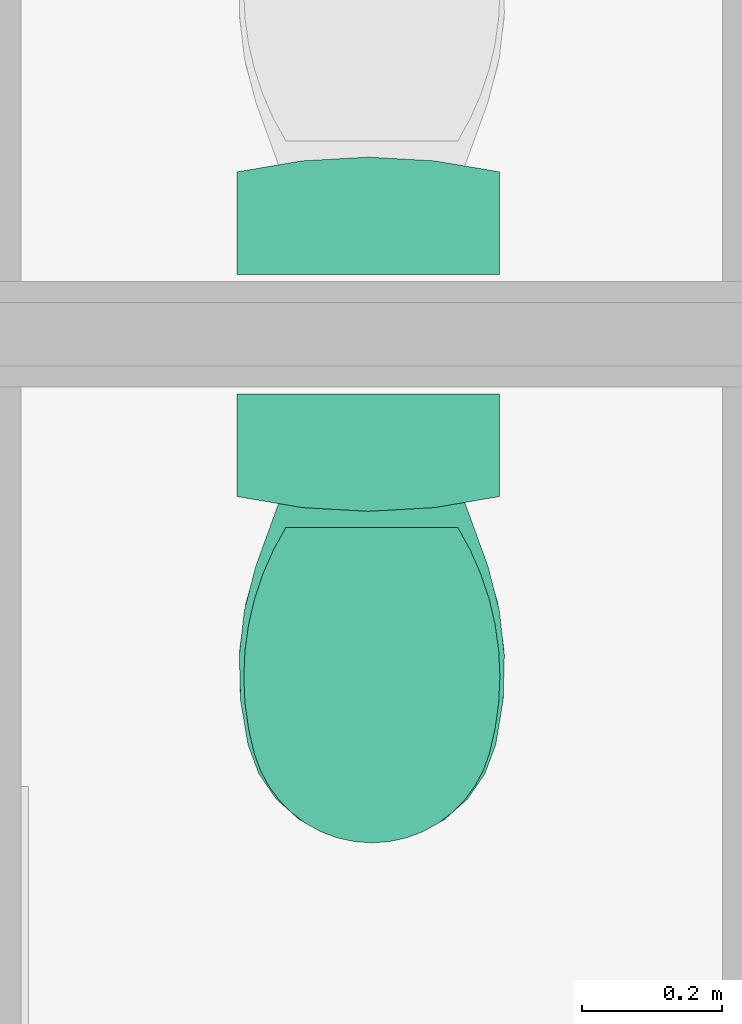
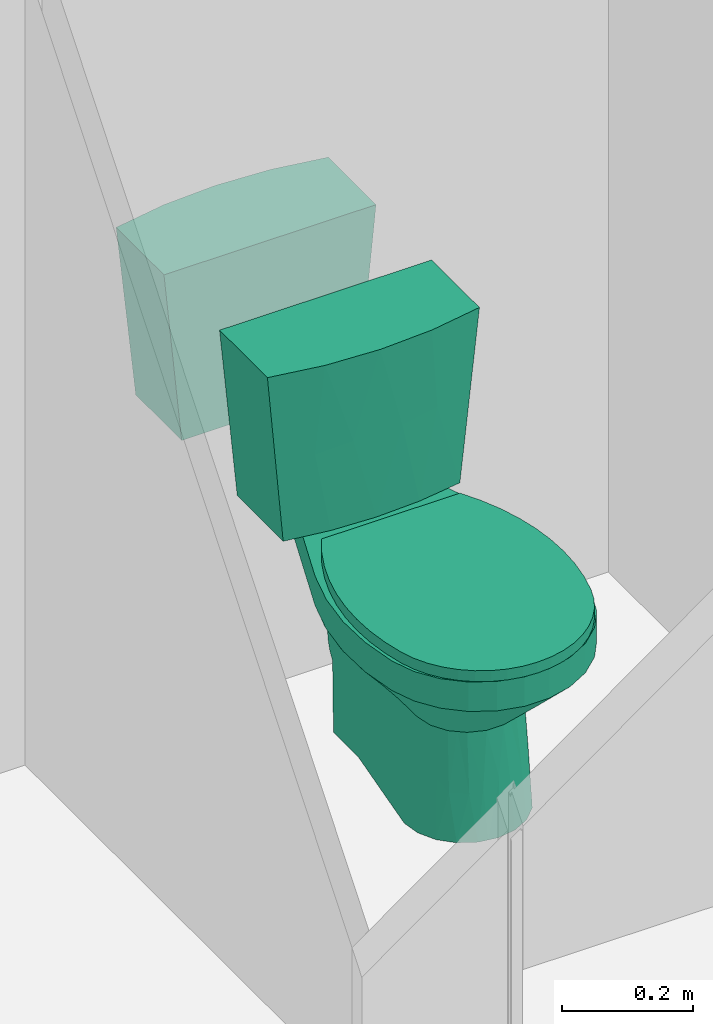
# One storey, part 68 of 155: 4 flow terminals.
"""IFC2X3 building model written with IfcOpenShell, lengths in metres."""

import ifcopenshell
import ifcopenshell.guid

model = None  # the IFC model being written
_history = None  # IfcOwnerHistory: only IFC2X3 demands one
_inside = {}  # id of a spatial element -> (the spatial element, [elements in it])
_under = {}  # id of a project, library or spatial element -> (it, [spatial elements below it])
_declared = {}  # id of a project -> (the project, [libraries it declares])
_typed = {}  # id of a type object -> (the type object, [elements of that type])
_made_of = {}  # id of a material, layer set ... -> (it, [elements and type objects made of it])


def new_model(schema):
    """Start an empty IFC model of exactly this schema.

    Asked for "IFC4X3", IfcOpenShell would pick the latest addendum, in which some entities
    have other attributes; the version numbers below select the first issue.
    IFC2X3 requires an IfcOwnerHistory on every rooted entity: one is made here for all.
    """
    global model, _history
    if schema == "IFC4X3":
        model = ifcopenshell.file(schema_version=(4, 3, 0, 0))
    else:
        model = ifcopenshell.file(schema=schema)
    _inside.clear()
    _under.clear()
    _declared.clear()
    _typed.clear()
    _made_of.clear()
    _history = None
    if model.schema == "IFC2X3":
        org = make("IfcOrganization", Name="unknown")
        user = make(
            "IfcPersonAndOrganization",
            ThePerson=make("IfcPerson", FamilyName="unknown"),
            TheOrganization=org,
        )
        app = make(
            "IfcApplication",
            ApplicationDeveloper=org,
            Version="unknown",
            ApplicationFullName="unknown",
            ApplicationIdentifier="unknown",
        )
        _history = make(
            "IfcOwnerHistory",
            OwningUser=user,
            OwningApplication=app,
            ChangeAction="ADDED",
            CreationDate=0,
        )
    return model


def make(cls, **values):
    """One entity of the class cls with the attributes given. An attribute that is None is left unset."""
    return model.create_entity(
        cls, **{name: value for name, value in values.items() if value is not None}
    )


def entity(cls, *values):
    """Any entity or typed value of the class cls, its attributes in the order of the schema. None: left unset."""
    e = model.create_entity(cls)
    for i, value in enumerate(values):
        if value is not None:
            e[i] = value
    return e


def rooted(cls, **values):
    """An entity with a GlobalId (a new one), such as an element, a storey or a relation."""
    return make(cls, GlobalId=ifcopenshell.guid.new(), OwnerHistory=_history, **values)


def si_unit(unit_type, name, prefix=None):
    """IfcSIUnit, for example si_unit("LENGTHUNIT", "METRE", prefix="MILLI")."""
    return make("IfcSIUnit", UnitType=unit_type, Prefix=prefix, Name=name)


def converted_unit(unit_type, name, factor, base, dimensions=None, offset=None):
    """IfcConversionBasedUnit, such as the inch: factor (a typed value) times the base unit."""
    return make(
        "IfcConversionBasedUnit"
        if offset is None
        else "IfcConversionBasedUnitWithOffset",
        ConversionOffset=offset,
        Dimensions=None
        if dimensions is None
        else entity("IfcDimensionalExponents", *dimensions),
        UnitType=unit_type,
        Name=name,
        ConversionFactor=make(
            "IfcMeasureWithUnit", ValueComponent=factor, UnitComponent=base
        ),
    )


def derived_unit(unit_type, elements):
    """IfcDerivedUnit: a product of units, each with its exponent."""
    return make(
        "IfcDerivedUnit",
        Elements=[
            make("IfcDerivedUnitElement", Unit=unit, Exponent=power)
            for unit, power in elements
        ],
        UnitType=unit_type,
    )


def assignment(units):
    """IfcUnitAssignment: the units of a project."""
    return None if units is None else make("IfcUnitAssignment", Units=units)


def point(xyz):
    """IfcCartesianPoint."""
    return None if xyz is None else make("IfcCartesianPoint", Coordinates=xyz)


def direction(xyz):
    """IfcDirection."""
    return None if xyz is None else make("IfcDirection", DirectionRatios=xyz)


def frame(location, z_axis=None, x_axis=None):
    """IfcAxis2Placement3D, a coordinate frame: its origin and axes. An axis left out is left unset."""
    return make(
        "IfcAxis2Placement3D",
        Location=point(location),
        Axis=direction(z_axis),
        RefDirection=direction(x_axis),
    )


def frame_2d(location, x_axis=None):
    """IfcAxis2Placement2D, a coordinate frame in the plane: its origin and x axis."""
    return make(
        "IfcAxis2Placement2D", Location=point(location), RefDirection=direction(x_axis)
    )


def origin():
    """The frame at (0, 0, 0) with its axes left unset."""
    return frame((0.0, 0.0, 0.0))


def place(relative_to, where):
    """IfcLocalPlacement: puts the frame where relative to a parent placement (None: the world)."""
    return make(
        "IfcLocalPlacement", PlacementRelTo=relative_to, RelativePlacement=where
    )


def context(
    kind, dimensions, precision=None, world=None, true_north=None, identifier=None
):
    """IfcGeometricRepresentationContext, for example the 3D "Model" context."""
    return make(
        "IfcGeometricRepresentationContext",
        ContextIdentifier=identifier,
        ContextType=kind,
        CoordinateSpaceDimension=dimensions,
        Precision=precision,
        WorldCoordinateSystem=world,
        TrueNorth=true_north,
    )


def subcontext(parent, identifier, kind, view, scale=None):
    """IfcGeometricRepresentationSubContext, for example "Body" below "Model"."""
    return make(
        "IfcGeometricRepresentationSubContext",
        ContextIdentifier=identifier,
        ContextType=kind,
        ParentContext=parent,
        TargetScale=scale,
        TargetView=view,
    )


def project(units=None, contexts=None):
    """IfcProject with its units and contexts."""
    return rooted(
        "IfcProject",
        Name="project",
        RepresentationContexts=contexts,
        UnitsInContext=assignment(units),
    )


def spatial(cls, under=None, at=None, **own):
    """A site, building, storey or space (cls), placed at a placement, below another one or the project."""
    s = rooted(cls, ObjectPlacement=at, **own)
    if under is not None:
        _under.setdefault(under.id(), (under, []))[1].append(s)
    return s


def polyline(points):
    """IfcPolyline through the points."""
    return make("IfcPolyline", Points=[point(p) for p in points])


def circle_curve(where, radius):
    """IfcCircle in the frame where."""
    return make("IfcCircle", Position=where, Radius=radius)


def parameter(value):
    """IfcParameterValue: where a trimmed curve begins or ends, as a parameter of its basis curve."""
    return model.create_entity("IfcParameterValue", value)


def trimmed(basis, trim1, trim2, sense, master):
    """IfcTrimmedCurve: the piece of a basis curve between two trims."""
    return make(
        "IfcTrimmedCurve",
        BasisCurve=basis,
        Trim1=trim1,
        Trim2=trim2,
        SenseAgreement=sense,
        MasterRepresentation=master,
    )


def segment(curve, same_sense, transition):
    """IfcCompositeCurveSegment."""
    return make(
        "IfcCompositeCurveSegment",
        Transition=transition,
        SameSense=same_sense,
        ParentCurve=curve,
    )


def composite_curve(segments, self_intersect=None):
    """IfcCompositeCurve: segments joined end to end."""
    return make("IfcCompositeCurve", Segments=segments, SelfIntersect=self_intersect)


def outline(outer, holes=None, kind="AREA"):
    """IfcArbitraryClosedProfileDef: a profile drawn as a closed curve; with holes, ...WithVoids."""
    if holes is None:
        return make("IfcArbitraryClosedProfileDef", ProfileType=kind, OuterCurve=outer)
    return make(
        "IfcArbitraryProfileDefWithVoids",
        ProfileType=kind,
        OuterCurve=outer,
        InnerCurves=holes,
    )


def extrude(swept, where, along, depth):
    """IfcExtrudedAreaSolid: the profile swept, set in the frame where, extruded along a direction by depth."""
    return make(
        "IfcExtrudedAreaSolid",
        SweptArea=swept,
        Position=where,
        ExtrudedDirection=direction(along),
        Depth=depth,
    )


def faces_of(points, faces, orient=None, outer=None):
    """IfcFace entities. A face is a list of loops; a loop is a list of indices into points, from 0.

    orient and outer hold one flag for each loop. By default every Orientation is true, the
    first loop of a face is its IfcFaceOuterBound and the others are IfcFaceBound.
    """
    made = []
    for i, loops in enumerate(faces):
        bounds = []
        for j, loop in enumerate(loops):
            is_outer = j == 0 if outer is None else outer[i][j]
            bounds.append(
                make(
                    "IfcFaceOuterBound" if is_outer else "IfcFaceBound",
                    Bound=make("IfcPolyLoop", Polygon=[points[k] for k in loop]),
                    Orientation=True if orient is None else orient[i][j],
                )
            )
        made.append(make("IfcFace", Bounds=bounds))
    return made


def faceted_brep(points, faces, orient=None, outer=None, voids=None):
    """IfcFacetedBrep: a solid bounded by flat faces; with voids (closed shells), ...WithVoids."""
    shared = [point(p) for p in points]
    hull = make("IfcClosedShell", CfsFaces=faces_of(shared, faces, orient, outer))
    if voids is None:
        return make("IfcFacetedBrep", Outer=hull)
    return make(
        "IfcFacetedBrepWithVoids",
        Outer=hull,
        Voids=[
            make(cls, CfsFaces=faces_of(shared, fs, o, b)) for cls, fs, o, b in voids
        ],
    )


def shape(context_of_items, identifier, shape_type, items):
    """IfcShapeRepresentation: the items that make up one representation, for example the "Body"."""
    return make(
        "IfcShapeRepresentation",
        ContextOfItems=context_of_items,
        RepresentationIdentifier=identifier,
        RepresentationType=shape_type,
        Items=items,
    )


def source(mapping_origin, context_of_items, identifier, shape_type, items):
    """IfcRepresentationMap: a shape defined once, which mapped items show again and again."""
    return make(
        "IfcRepresentationMap",
        MappingOrigin=mapping_origin,
        MappedRepresentation=shape(context_of_items, identifier, shape_type, items),
    )


def transform(
    local_origin,
    x_axis=None,
    y_axis=None,
    z_axis=None,
    scale=None,
    scale2=None,
    scale3=None,
    uniform=True,
):
    """IfcCartesianTransformationOperator3D, or its non-uniform kind. x_axis, y_axis, z_axis: its Axis1, 2, 3."""
    if uniform:
        return make(
            "IfcCartesianTransformationOperator3D",
            Axis1=direction(x_axis),
            Axis2=direction(y_axis),
            LocalOrigin=point(local_origin),
            Scale=scale,
            Axis3=direction(z_axis),
        )
    return make(
        "IfcCartesianTransformationOperator3DnonUniform",
        Axis1=direction(x_axis),
        Axis2=direction(y_axis),
        LocalOrigin=point(local_origin),
        Scale=scale,
        Axis3=direction(z_axis),
        Scale2=scale2,
        Scale3=scale3,
    )


def mapped(mapping_source, mapping_target):
    """IfcMappedItem: shows the shape of a source again, moved by a transform."""
    return make(
        "IfcMappedItem", MappingSource=mapping_source, MappingTarget=mapping_target
    )


def material(Name=None, Category=None):
    """IfcMaterial."""
    return make("IfcMaterial", Name=Name, Category=Category)


def made_of(thing, what):
    """Note that an element or type object is made of a material, layer set ...; save() writes the relation."""
    if what is not None:
        _made_of.setdefault(what.id(), (what, []))[1].append(thing)
    return thing


def element(
    cls,
    number,
    at=None,
    inside=None,
    cuts=None,
    type_object=None,
    material=None,
    context=None,
    identifier="Body",
    shape_type=None,
    held_by="IfcProductDefinitionShape",
    body=None,
    shapes=None,
    **own,
):
    """One element of the class cls, such as IfcWall. Its Tag is "e" and its number.

    at: its placement. inside: the storey or other place that contains it. cuts: it is an
    opening in that element (IfcRelVoidsElement). A single representation is given by context,
    identifier, shape_type and body (its items); several are given by shapes. held_by: the class
    of the entity that holds the representations. save() writes the other relations.
    """
    e = rooted(cls, Tag="e%d" % number, ObjectPlacement=at, **own)
    if body is not None:
        shapes = [shape(context, identifier, shape_type, body)]
    if shapes is not None:
        e.Representation = make(held_by, Representations=shapes)
    if inside is not None:
        _inside.setdefault(inside.id(), (inside, []))[1].append(e)
    if cuts is not None:
        rooted(
            "IfcRelVoidsElement", RelatingBuildingElement=cuts, RelatedOpeningElement=e
        )
    if type_object is not None:
        _typed.setdefault(type_object.id(), (type_object, []))[1].append(e)
    return made_of(e, material)


def aggregate(whole, parts):
    """IfcRelAggregates: a whole, such as a stair, and the parts it consists of."""
    return rooted("IfcRelAggregates", RelatingObject=whole, RelatedObjects=parts)


def save(model, path):
    """Write the relations noted so far, then the file.

    IfcRelAggregates (storeys below a building ...), IfcRelContainedInSpatialStructure (elements
    in a storey), IfcRelDefinesByType, IfcRelAssociatesMaterial and IfcRelDeclares: one each for
    every whole, place, type object, material and project.
    """
    for whole, parts in _under.values():
        aggregate(whole, parts)
    for where, things in _inside.values():
        rooted(
            "IfcRelContainedInSpatialStructure",
            RelatedElements=things,
            RelatingStructure=where,
        )
    for kind, things in _typed.values():
        rooted("IfcRelDefinesByType", RelatedObjects=things, RelatingType=kind)
    for what, things in _made_of.values():
        rooted("IfcRelAssociatesMaterial", RelatedObjects=things, RelatingMaterial=what)
    for by, libraries in _declared.values():
        rooted("IfcRelDeclares", RelatingContext=by, RelatedDefinitions=libraries)
    model.write(path)


model = new_model("IFC2X3")

# Units and contexts
model_context = context("Model", 3, precision=1e-05, world=origin(), true_north=direction((6.12303176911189e-17, 1.0)))
body_context = subcontext(model_context, "Body", "Model", "MODEL_VIEW")
ifc_project = project(units=[si_unit("LENGTHUNIT", "METRE"), si_unit("AREAUNIT", "SQUARE_METRE"), si_unit("VOLUMEUNIT", "CUBIC_METRE"), converted_unit("PLANEANGLEUNIT", "DEGREE", entity("IfcRatioMeasure", 0.0174532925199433), si_unit("PLANEANGLEUNIT", "RADIAN"), dimensions=[0, 0, 0, 0, 0, 0, 0]), si_unit("MASSUNIT", "GRAM", prefix="KILO"), derived_unit("MASSDENSITYUNIT", [(si_unit("MASSUNIT", "GRAM", prefix="KILO"), 1), (si_unit("LENGTHUNIT", "METRE"), -3)]), si_unit("TIMEUNIT", "SECOND"), si_unit("FREQUENCYUNIT", "HERTZ"), si_unit("THERMODYNAMICTEMPERATUREUNIT", "DEGREE_CELSIUS"), derived_unit("THERMALTRANSMITTANCEUNIT", [(si_unit("MASSUNIT", "GRAM", prefix="KILO"), 1), (si_unit("THERMODYNAMICTEMPERATUREUNIT", "KELVIN"), -1), (si_unit("TIMEUNIT", "SECOND"), -3)]), derived_unit("VOLUMETRICFLOWRATEUNIT", [(si_unit("LENGTHUNIT", "METRE"), 3), (si_unit("TIMEUNIT", "SECOND"), -1)]), si_unit("ELECTRICCURRENTUNIT", "AMPERE"), si_unit("ELECTRICVOLTAGEUNIT", "VOLT"), si_unit("POWERUNIT", "WATT"), si_unit("FORCEUNIT", "NEWTON", prefix="KILO"), si_unit("ILLUMINANCEUNIT", "LUX"), si_unit("LUMINOUSFLUXUNIT", "LUMEN"), si_unit("LUMINOUSINTENSITYUNIT", "CANDELA"), derived_unit("USERDEFINED", [(si_unit("MASSUNIT", "GRAM", prefix="KILO"), -1), (si_unit("LENGTHUNIT", "METRE"), -2), (si_unit("TIMEUNIT", "SECOND"), 3), (si_unit("LUMINOUSFLUXUNIT", "LUMEN"), 1)]), derived_unit("LINEARVELOCITYUNIT", [(si_unit("LENGTHUNIT", "METRE"), 1), (si_unit("TIMEUNIT", "SECOND"), -1)]), si_unit("PRESSUREUNIT", "PASCAL"), derived_unit("USERDEFINED", [(si_unit("LENGTHUNIT", "METRE"), -2), (si_unit("MASSUNIT", "GRAM", prefix="KILO"), 1), (si_unit("TIMEUNIT", "SECOND"), -2)])], contexts=[model_context])

# Site, building, storey, space
site_placement = place(None, frame((26.9889013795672, -17.5624287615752, 0.0)))
site = spatial("IfcSite", under=ifc_project, at=site_placement, Name="Default", CompositionType="ELEMENT")
building_placement = place(site_placement, origin())
building = spatial("IfcBuilding", under=site, at=building_placement, Name="C. C. L. Monsenhor Antônio Sampaio", CompositionType="ELEMENT")
storey_placement = place(building_placement, frame((0.0, 0.0, 1.19999999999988)))
storey = spatial("IfcBuildingStorey", under=building, at=storey_placement, Name="Nível 1.2", CompositionType="ELEMENT", Elevation=1.19999999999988)
space_1_placement = place(storey_placement, origin())
space_1 = spatial("IfcSpace", under=storey, at=space_1_placement, Name="92", CompositionType="ELEMENT", InteriorOrExteriorSpace="INTERNAL")

# Flow terminal
ifc_material_1 = material(Name="Deca CR37 Creme Cerâmica")
shared_shape_1 = source(origin(), body_context, "Body", "Brep", [
    faceted_brep([(0.156041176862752, 0.0, 0.140537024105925), (0.0783916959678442, 0.0, 0.151956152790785), (0.0, 0.0, 0.155774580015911), (-0.0783916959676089, 0.0, 0.151956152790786), (-0.156041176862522, 0.0, 0.140537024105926), (-0.156041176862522, 0.0, 0.0), (0.156041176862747, 0.0, 0.0), (0.187262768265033, 0.320000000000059, 0.146391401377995), (0.187262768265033, 0.320000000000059, 0.0), (-0.187262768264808, 0.320000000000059, 0.0), (-0.187262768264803, 0.320000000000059, 0.146391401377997), (-0.0942242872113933, 0.320000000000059, 0.162205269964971), (0.0, 0.320000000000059, 0.167498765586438), (0.0942242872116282, 0.320000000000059, 0.16220526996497), (-0.171038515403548, 0.153712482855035, 0.143349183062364), (0.172265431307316, 0.166287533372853, 0.143579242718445), (0.107419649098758, 0.153032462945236, 0.154306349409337), (0.0432143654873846, 0.160000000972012, 0.160496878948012), (-0.0432143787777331, 0.160000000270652, 0.160496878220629), (-0.108279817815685, 0.16696754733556, 0.154716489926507)], [[[0, 1, 2, 3, 4, 5, 6]], [[7, 8, 9, 10, 11, 12, 13]], [[9, 5, 4, 14, 10]], [[6, 8, 7, 15, 0]], [[5, 9, 8, 6]], [[0, 15, 7, 16]], [[13, 16, 7]], [[13, 12, 17]], [[16, 13, 17]], [[16, 17, 1]], [[18, 17, 12]], [[17, 2, 1]], [[19, 18, 11]], [[3, 19, 4]], [[10, 19, 11]], [[11, 18, 12]], [[18, 19, 3]], [[0, 16, 1]], [[2, 17, 18]], [[10, 14, 4, 19]], [[2, 18, 3]]]),
])
flow_terminal_1_placement = place(space_1_placement, frame((-2.88315075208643, -12.5930663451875, 0.380000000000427), z_axis=(0.0, 1.0, 0.0), x_axis=(-1.0, 0.0, 0.0)))
element("IfcFlowTerminal", 1, at=flow_terminal_1_placement, inside=space_1, material=ifc_material_1, Name="Caixa de Descarga Acoplada:Caixa de Descarga Acoplada", ObjectType="Caixa de Descarga Acoplada", context=body_context, shape_type="MappedRepresentation", body=[
    mapped(shared_shape_1, transform((0.0, 0.0, 0.0), scale=1.0)),
])

# Space
space_2_placement = place(storey_placement, origin())
space_2 = spatial("IfcSpace", under=storey, at=space_2_placement, Name="93", CompositionType="ELEMENT", InteriorOrExteriorSpace="INTERNAL")

# Flow terminals
shared_shape_2 = source(origin(), body_context, "Body", "Brep", [
    faceted_brep([(0.268160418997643, 0.380000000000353, 0.118207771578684), (0.268160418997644, 0.380000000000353, 0.1938965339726), (0.268160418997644, 0.313331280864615, 0.193201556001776), (0.268160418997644, 0.24666007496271, 0.192953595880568), (0.268160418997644, 0.180000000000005, 0.193896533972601), (0.268160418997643, 0.0549999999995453, 0.140707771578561), (0.268160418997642, 0.0549999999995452, 0.00159527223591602), (0.268160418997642, 0.0698988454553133, 0.0100176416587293), (0.268160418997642, 0.0823512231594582, 0.0217586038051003), (0.268160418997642, 0.0916344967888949, 0.0361368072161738), (0.268160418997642, 0.0972099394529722, 0.0523178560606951), (0.268160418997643, 0.0987539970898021, 0.0693627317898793), (0.268160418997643, 0.179999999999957, 0.102188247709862), (0.268160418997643, 0.19786747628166, 0.0997541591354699), (0.268160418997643, 0.215838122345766, 0.101246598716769), (0.268160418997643, 0.233059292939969, 0.10659475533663), (0.268160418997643, 0.248713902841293, 0.11554487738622), (0.113406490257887, 0.0916344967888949, 0.0361368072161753), (0.113406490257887, 0.0823512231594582, 0.0217586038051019), (0.113406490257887, 0.0698988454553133, 0.0100176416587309), (0.113406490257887, 0.0549999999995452, 0.00159527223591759), (0.113406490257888, 0.0549999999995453, 0.140707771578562), (0.113406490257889, 0.180000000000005, 0.193896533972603), (0.113406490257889, 0.246666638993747, 0.194094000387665), (0.113406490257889, 0.313333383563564, 0.194043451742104), (0.113406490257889, 0.380000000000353, 0.193896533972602), (0.113406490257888, 0.380000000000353, 0.118207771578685), (0.113406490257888, 0.248713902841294, 0.115544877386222), (0.113406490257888, 0.233059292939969, 0.106594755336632), (0.113406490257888, 0.215838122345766, 0.101246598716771), (0.113406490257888, 0.19786747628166, 0.0997541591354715), (0.113406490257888, 0.179999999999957, 0.102188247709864), (0.113406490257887, 0.0987539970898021, 0.0693627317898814), (0.113406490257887, 0.0972099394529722, 0.0523178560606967), (0.252339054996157, 0.380000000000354, 0.467840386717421), (0.275610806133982, 0.380000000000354, 0.444568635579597), (0.290552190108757, 0.380000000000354, 0.415244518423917), (0.295700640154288, 0.380000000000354, 0.382738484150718), (0.281970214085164, 0.380000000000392, 0.288317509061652), (0.105710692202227, 0.380000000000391, 0.24571892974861), (0.0979976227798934, 0.380000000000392, 0.297541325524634), (0.085317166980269, 0.380000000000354, 0.382738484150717), (0.0904656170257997, 0.380000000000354, 0.415244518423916), (0.105407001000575, 0.380000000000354, 0.444568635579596), (0.128678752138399, 0.380000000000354, 0.467840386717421), (0.158002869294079, 0.380000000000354, 0.482781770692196), (0.190508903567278, 0.380000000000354, 0.487930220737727), (0.206761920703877, 0.380000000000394, 0.485355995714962), (0.223014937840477, 0.380000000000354, 0.482781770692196), (0.27929222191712, 0.179999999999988, 0.393896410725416), (0.273106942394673, 0.179999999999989, 0.423407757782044), (0.257407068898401, 0.179999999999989, 0.449150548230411), (0.245704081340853, 0.179999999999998, 0.458654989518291), (0.234001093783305, 0.179999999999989, 0.468159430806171), (0.205585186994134, 0.179999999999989, 0.47824474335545), (0.175432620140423, 0.179999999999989, 0.47824474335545), (0.161224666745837, 0.179999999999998, 0.473202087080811), (0.147016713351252, 0.179999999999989, 0.468159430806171), (0.123610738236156, 0.179999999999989, 0.449150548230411), (0.107910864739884, 0.179999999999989, 0.423407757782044), (0.101725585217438, 0.179999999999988, 0.393896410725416), (0.104935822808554, 0.179999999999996, 0.339012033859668), (0.107574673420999, 0.179999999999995, 0.293896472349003), (0.271287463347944, 0.179999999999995, 0.249045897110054), (0.274335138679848, 0.179999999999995, 0.304195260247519), (0.098784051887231, 0.290142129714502, 0.330769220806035), (0.105110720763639, 0.283569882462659, 0.273844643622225), (0.0934222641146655, 0.281208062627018, 0.388250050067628), (0.0953872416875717, 0.257257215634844, 0.389586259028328), (0.274339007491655, 0.279255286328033, 0.255685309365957), (0.280137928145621, 0.282802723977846, 0.312510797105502), (0.287496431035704, 0.280000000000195, 0.388317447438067), (0.285630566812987, 0.25725723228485, 0.389586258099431), (0.0966193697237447, 0.275039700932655, 0.409632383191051), (0.121774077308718, 0.29110573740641, 0.45601571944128), (0.109893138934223, 0.271267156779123, 0.439731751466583), (0.233838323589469, 0.291843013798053, 0.474126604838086), (0.259243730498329, 0.291105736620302, 0.456015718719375), (0.271124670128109, 0.271267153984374, 0.4397317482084), (0.165732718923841, 0.276826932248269, 0.480372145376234), (0.284398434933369, 0.275039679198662, 0.40963238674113), (0.137585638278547, 0.278929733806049, 0.46796088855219), (0.212957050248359, 0.281586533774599, 0.481168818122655), (0.186508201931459, 0.26973608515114, 0.483217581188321)], [[[0, 1, 2, 3, 4, 5, 6, 7, 8, 9, 10, 11, 12, 13, 14, 15, 16]], [[17, 18, 19, 20, 21, 22, 23, 24, 25, 26, 27, 28, 29, 30, 31, 32, 33]], [[20, 6, 5, 21]], [[34, 35, 36, 37, 38, 1, 0, 26, 25, 39, 40, 41, 42, 43, 44, 45, 46, 47, 48]], [[26, 0, 16, 27]], [[15, 28, 27, 16]], [[29, 28, 15, 14]], [[13, 12, 31, 30]], [[14, 13, 30, 29]], [[31, 12, 11, 32]], [[33, 32, 11, 10]], [[17, 33, 10, 9]], [[9, 8, 18, 17]], [[19, 18, 8, 7]], [[20, 19, 7, 6]], [[21, 5, 4, 22]], [[49, 50, 51, 52, 53, 54, 55, 56, 57, 58, 59, 60, 61, 62, 22, 4, 63, 64]], [[62, 61, 65]], [[62, 65, 66]], [[22, 66, 23]], [[39, 66, 40]], [[65, 67, 41]], [[61, 60, 68, 67]], [[39, 25, 24]], [[66, 39, 24]], [[22, 62, 66]], [[66, 24, 23]], [[40, 66, 65]], [[40, 65, 41]], [[67, 65, 61]], [[69, 1, 38]], [[70, 38, 37]], [[3, 2, 69]], [[69, 2, 1]], [[70, 37, 71, 72, 49]], [[64, 70, 49]], [[69, 38, 70]], [[64, 69, 70]], [[69, 63, 3]], [[4, 3, 63]], [[69, 64, 63]], [[59, 73, 60]], [[73, 42, 41]], [[44, 43, 74]], [[58, 74, 75]], [[52, 76, 53]], [[43, 42, 75]], [[35, 77, 78]], [[56, 55, 79]], [[68, 60, 73, 41, 67]], [[80, 49, 72, 71, 37]], [[43, 75, 74]], [[81, 74, 58]], [[44, 81, 45]], [[44, 74, 81]], [[81, 79, 45]], [[73, 59, 75]], [[56, 79, 81]], [[75, 59, 58]], [[53, 76, 82]], [[76, 34, 48]], [[78, 80, 36]], [[83, 82, 47]], [[54, 53, 82]], [[77, 35, 34]], [[54, 82, 83]], [[80, 50, 49]], [[47, 82, 48]], [[76, 48, 82]], [[79, 83, 46]], [[79, 55, 83]], [[34, 76, 77]], [[77, 51, 78]], [[47, 46, 83]], [[45, 79, 46]], [[56, 81, 57]], [[83, 55, 54]], [[77, 76, 52]], [[51, 77, 52]], [[57, 81, 58]], [[35, 78, 36]], [[78, 51, 50]], [[42, 73, 75]], [[50, 80, 78]], [[36, 80, 37]]]),
    faceted_brep([(0.278810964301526, 0.0549999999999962, 0.00159527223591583), (0.102206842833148, 0.0549999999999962, 0.00159527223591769), (0.0249993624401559, 0.0549999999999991, 0.214136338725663), (0.00887872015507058, 0.055, 0.276529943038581), (0.001595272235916, 0.0550000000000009, 0.340559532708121), (0.00329068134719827, 0.0550000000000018, 0.404979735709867), (0.0139319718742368, 0.0550000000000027, 0.46853758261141), (0.0293015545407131, 0.0550000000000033, 0.50973851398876), (0.0541240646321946, 0.0550000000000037, 0.546037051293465), (0.0869439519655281, 0.0550000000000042, 0.575304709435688), (0.1258367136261, 0.0550000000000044, 0.595825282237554), (0.168521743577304, 0.0550000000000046, 0.606395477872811), (0.212496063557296, 0.0550000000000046, 0.606395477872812), (0.2551810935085, 0.0550000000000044, 0.595825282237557), (0.294073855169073, 0.0550000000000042, 0.575304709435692), (0.326893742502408, 0.0550000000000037, 0.546037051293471), (0.351716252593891, 0.0550000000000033, 0.509738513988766), (0.367085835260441, 0.0550000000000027, 0.468537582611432), (0.377727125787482, 0.0550000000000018, 0.404979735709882), (0.379422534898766, 0.0550000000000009, 0.340559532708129), (0.37213908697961, 0.055, 0.276529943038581), (0.356018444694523, 0.0549999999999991, 0.21413633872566), (0.326893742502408, 0.0, 0.546037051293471), (0.294073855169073, 0.0, 0.575304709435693), (0.2551810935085, 0.0, 0.595825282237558), (0.212496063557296, 0.0, 0.606395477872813), (0.168521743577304, 0.0, 0.606395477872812), (0.1258367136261, 0.0, 0.595825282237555), (0.0869439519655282, 0.0, 0.575304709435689), (0.0541240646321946, 0.0, 0.546037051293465), (0.0293015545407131, 0.0, 0.50973851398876), (0.0139319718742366, 0.0, 0.468537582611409), (0.00329068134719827, 0.0, 0.404979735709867), (0.001595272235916, 0.0, 0.340559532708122), (0.00887872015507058, 0.0, 0.276529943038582), (0.0249993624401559, 0.0, 0.214136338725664), (0.102206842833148, 0.0, 0.00159527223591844), (0.278810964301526, 0.0, 0.00159527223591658), (0.356018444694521, 0.0, 0.214136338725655), (0.37213908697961, 0.0, 0.276529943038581), (0.379422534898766, 0.0, 0.340559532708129), (0.377727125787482, 0.0, 0.404979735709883), (0.367085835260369, 0.0, 0.468537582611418), (0.351716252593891, 0.0, 0.509738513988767)], [[[0, 1, 2, 3, 4, 5, 6, 7, 8, 9, 10, 11, 12, 13, 14, 15, 16, 17, 18, 19, 20, 21]], [[22, 23, 24, 25, 26, 27, 28, 29, 30, 31, 32, 33, 34, 35, 36, 37, 38, 39, 40, 41, 42, 43]], [[35, 2, 1, 36]], [[36, 1, 0, 37]], [[37, 0, 21, 38]], [[20, 19, 40, 39]], [[38, 21, 20, 39]], [[18, 17, 42, 41]], [[19, 18, 41, 40]], [[42, 17, 16, 43]], [[43, 16, 15, 22]], [[24, 23, 14, 13]], [[14, 23, 22, 15]], [[25, 24, 13, 12]], [[12, 11, 26, 25]], [[9, 28, 27, 10]], [[10, 27, 26, 11]], [[30, 29, 8, 7]], [[28, 9, 8, 29]], [[31, 30, 7, 6]], [[5, 4, 33, 32]], [[31, 6, 5, 32]], [[3, 2, 35, 34]], [[4, 3, 34, 33]]]),
    faceted_brep([(0.00190963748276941, 0.0549999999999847, 0.334308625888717), (0.0106813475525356, 0.0549999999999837, 0.267316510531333), (0.0291285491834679, 0.0549999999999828, 0.202319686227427), (0.0568568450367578, 0.054999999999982, 0.140707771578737), (0.32416096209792, 0.054999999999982, 0.140707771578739), (0.351889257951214, 0.0549999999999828, 0.202319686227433), (0.370336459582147, 0.0549999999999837, 0.267316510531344), (0.379108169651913, 0.0549999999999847, 0.334308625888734), (0.378016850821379, 0.0549999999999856, 0.401863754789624), (0.36708583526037, 0.0549999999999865, 0.468537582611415), (0.351716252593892, 0.0549999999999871, 0.509738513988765), (0.326893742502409, 0.0549999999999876, 0.546037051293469), (0.294073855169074, 0.054999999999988, 0.575304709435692), (0.255181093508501, 0.0549999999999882, 0.595825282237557), (0.212496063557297, 0.0549999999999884, 0.606395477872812), (0.168521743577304, 0.0549999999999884, 0.606395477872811), (0.1258367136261, 0.0549999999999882, 0.595825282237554), (0.0869439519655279, 0.054999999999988, 0.575304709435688), (0.0541240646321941, 0.0549999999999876, 0.546037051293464), (0.0293015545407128, 0.0549999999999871, 0.509738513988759), (0.0139319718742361, 0.0549999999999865, 0.468537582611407), (0.00300095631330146, 0.0549999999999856, 0.401863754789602), (0.11342376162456, 0.179999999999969, 0.193896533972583), (0.11049921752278, 0.179999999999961, 0.24389650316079), (0.107574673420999, 0.179999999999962, 0.293896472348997), (0.104650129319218, 0.179999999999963, 0.343896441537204), (0.101725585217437, 0.179999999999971, 0.393896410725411), (0.107910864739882, 0.179999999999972, 0.42340775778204), (0.123610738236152, 0.179999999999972, 0.449150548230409), (0.1353137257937, 0.179999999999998, 0.45865498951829), (0.147016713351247, 0.179999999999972, 0.468159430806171), (0.175432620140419, 0.179999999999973, 0.478244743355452), (0.20558518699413, 0.179999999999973, 0.478244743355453), (0.234001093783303, 0.179999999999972, 0.468159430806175), (0.245704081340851, 0.179999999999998, 0.458654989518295), (0.2574070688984, 0.179999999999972, 0.449150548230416), (0.273106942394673, 0.179999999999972, 0.423407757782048), (0.27929222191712, 0.179999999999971, 0.393896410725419), (0.276529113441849, 0.179999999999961, 0.34389644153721), (0.273766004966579, 0.179999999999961, 0.293896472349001), (0.271002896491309, 0.17999999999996, 0.243896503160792), (0.268239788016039, 0.179999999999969, 0.193896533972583), (0.291656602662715, 0.127656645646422, 0.17162390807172), (0.307908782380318, 0.091328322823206, 0.15616583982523), (0.0733060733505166, 0.091349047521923, 0.156174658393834), (0.0897553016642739, 0.127698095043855, 0.171641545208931), (0.319208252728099, 0.109492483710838, 0.227274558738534), (0.301825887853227, 0.14804688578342, 0.324994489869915), (0.29696767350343, 0.148046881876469, 0.266380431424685), (0.326006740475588, 0.116093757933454, 0.297350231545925), (0.334403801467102, 0.10949248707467, 0.369343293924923), (0.292104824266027, 0.145256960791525, 0.219552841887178), (0.316055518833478, 0.127656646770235, 0.425152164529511), (0.335161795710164, 0.100453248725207, 0.441396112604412), (0.341570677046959, 0.0913283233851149, 0.446844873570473), (0.30510677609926, 0.145256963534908, 0.372928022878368), (0.0467077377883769, 0.10952356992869, 0.369338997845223), (0.0394616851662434, 0.0913490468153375, 0.446832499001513), (0.0458560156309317, 0.100453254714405, 0.441396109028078), (0.0649913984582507, 0.12769809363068, 0.425127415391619), (0.084350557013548, 0.148046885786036, 0.266380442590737), (0.0793721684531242, 0.148046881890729, 0.324994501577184), (0.0551688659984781, 0.116093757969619, 0.297350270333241), (0.0620458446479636, 0.10952357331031, 0.227275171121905), (0.0759980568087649, 0.145263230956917, 0.372914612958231), (0.089299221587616, 0.145263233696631, 0.219565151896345), (0.0730163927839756, 0.11280069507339, 0.482893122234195), (0.0711556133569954, 0.128485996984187, 0.447531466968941), (0.190508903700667, 0.120856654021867, 0.540189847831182), (0.224981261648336, 0.114814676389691, 0.541965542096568), (0.10885067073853, 0.113642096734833, 0.520707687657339), (0.130559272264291, 0.115343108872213, 0.531942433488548), (0.309862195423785, 0.12848599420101, 0.447531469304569), (0.15603654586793, 0.114814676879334, 0.541965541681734), (0.0912929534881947, 0.115800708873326, 0.502321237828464), (0.250458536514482, 0.115343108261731, 0.531942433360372), (0.289724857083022, 0.115800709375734, 0.50232123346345), (0.308001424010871, 0.112800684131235, 0.482893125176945), (0.272167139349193, 0.113642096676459, 0.520707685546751)], [[[0, 1, 2, 3, 4, 5, 6, 7, 8, 9, 10, 11, 12, 13, 14, 15, 16, 17, 18, 19, 20, 21]], [[22, 23, 24, 25, 26, 27, 28, 29, 30, 31, 32, 33, 34, 35, 36, 37, 38, 39, 40, 41]], [[22, 41, 42, 43, 4, 3, 44, 45]], [[42, 46, 43]], [[47, 48, 39]], [[7, 6, 49]], [[7, 50, 8]], [[43, 46, 5]], [[48, 46, 51]], [[49, 46, 48]], [[50, 52, 53, 54]], [[47, 39, 38]], [[46, 6, 5]], [[5, 4, 43]], [[38, 37, 55]], [[55, 47, 38]], [[46, 49, 6]], [[8, 50, 54]], [[54, 9, 8]], [[7, 49, 50]], [[39, 48, 40]], [[41, 51, 42]], [[51, 40, 48]], [[49, 48, 47]], [[40, 51, 41]], [[42, 51, 46]], [[47, 50, 49]], [[52, 50, 55]], [[47, 55, 50]], [[52, 55, 37]], [[56, 57, 58, 59]], [[60, 61, 24]], [[1, 0, 62]], [[1, 63, 2]], [[57, 56, 21]], [[61, 56, 64]], [[62, 56, 61]], [[44, 63, 45]], [[60, 24, 23]], [[56, 0, 21]], [[21, 20, 57]], [[23, 22, 65]], [[65, 60, 23]], [[56, 62, 0]], [[2, 63, 44]], [[44, 3, 2]], [[1, 62, 63]], [[24, 61, 25]], [[26, 64, 59]], [[64, 25, 61]], [[62, 61, 60]], [[25, 64, 26]], [[59, 64, 56]], [[60, 63, 62]], [[45, 63, 65]], [[60, 65, 63]], [[45, 65, 22]], [[66, 27, 67]], [[32, 68, 69]], [[70, 71, 29]], [[72, 53, 52, 37]], [[31, 73, 68]], [[28, 66, 74]], [[36, 72, 37]], [[31, 30, 73]], [[68, 32, 31]], [[26, 67, 27]], [[18, 66, 19]], [[19, 58, 57, 20]], [[74, 66, 18]], [[30, 71, 73]], [[14, 69, 68]], [[10, 9, 54, 53]], [[16, 15, 73]], [[70, 74, 17]], [[68, 73, 15]], [[71, 17, 16]], [[69, 75, 33]], [[76, 11, 77]], [[77, 36, 35]], [[74, 18, 17]], [[28, 70, 29]], [[35, 34, 78]], [[30, 29, 71]], [[71, 16, 73]], [[14, 13, 69]], [[69, 13, 75]], [[75, 13, 12]], [[78, 76, 35]], [[77, 35, 76]], [[11, 10, 77]], [[66, 67, 19]], [[27, 66, 28]], [[72, 77, 10]], [[58, 19, 67]], [[67, 26, 59, 58]], [[68, 15, 14]], [[36, 77, 72]], [[32, 69, 33]], [[53, 72, 10]], [[76, 12, 11]], [[34, 33, 75]], [[12, 76, 78]], [[28, 74, 70]], [[70, 17, 71]], [[78, 75, 12]], [[75, 78, 34]]]),
])
flow_terminal_2_placement = place(space_2_placement, frame((-2.68764184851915, -12.7948585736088, 0.380000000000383), z_axis=(0.0, -1.0, 0.0), x_axis=(-1.0, 0.0, 0.0)))
element("IfcFlowTerminal", 2, at=flow_terminal_2_placement, inside=space_2, material=ifc_material_1, Name="Bacia para Caixa Acoplada:P.750_Creme CR37_Acionamento Simples 6lpf", ObjectType="P.750_Creme CR37_Acionamento Simples 6lpf", context=body_context, shape_type="MappedRepresentation", body=[
    mapped(shared_shape_2, transform((0.0, 0.0, 0.0), scale=1.0)),
])
ifc_material_2 = material(Name="Deca GE17 Branco Gelo Plástico")
shared_shape_3 = source(origin(), body_context, "Body", "SweptSolid", [
    extrude(outline(composite_curve([segment(trimmed(circle_curve(frame_2d((-0.195877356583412, 0.120829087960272), x_axis=(1.0, 0.0)), 0.406949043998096), [parameter(309.687623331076)], [parameter(356.917468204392)], True, "PARAMETER"), True, "CONTINUOUS"), segment(trimmed(circle_curve(frame_2d((0.0368457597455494, 0.108296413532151), x_axis=(-0.946706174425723, 0.322098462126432)), 0.173888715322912), [parameter(195.707346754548)], [parameter(344.292653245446)], True, "PARAMETER"), True, "CONTINUOUS"), segment(trimmed(circle_curve(frame_2d((0.2289232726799, -0.0237011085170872), x_axis=(-0.792505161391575, 0.609865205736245)), 0.406949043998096), [parameter(3.08253179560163)], [parameter(50.3123766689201)], True, "PARAMETER"), True, "CONTINUOUS"), segment(polyline([(-0.168018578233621, -0.113393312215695), (0.0640009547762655, -0.19233346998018)]), True, "CONTINUOUS")], self_intersect=False)), frame((0.0, -0.021064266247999, 0.151312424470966), z_axis=(0.0, 1.0, 0.0), x_axis=(-0.946706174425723, 0.0, 0.322098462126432)), (0.0, 0.0, 1.0), 0.0202797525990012),
])
flow_terminal_3_placement = place(space_2_placement, frame((-2.87815075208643, -12.9636913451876, 0.380000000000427), z_axis=(0.0, -1.0, 0.0), x_axis=(-1.0, 0.0, 0.0)))
element("IfcFlowTerminal", 3, at=flow_terminal_3_placement, inside=space_2, material=ifc_material_2, Name="Assento para Bacia Sanitária:Assento para Bacia Sanitária", ObjectType="Assento para Bacia Sanitária", context=body_context, shape_type="MappedRepresentation", body=[
    mapped(shared_shape_3, transform((0.0, 0.0, 0.0), scale=1.0)),
])
shared_shape_4 = source(origin(), body_context, "Body", "Brep", [
    faceted_brep([(0.156041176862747, 0.0, 0.0), (-0.156041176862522, 0.0, 0.0), (-0.156041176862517, 0.0, 0.140537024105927), (-0.0783916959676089, 0.0, 0.151956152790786), (0.0, 0.0, 0.155774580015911), (0.0783916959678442, 0.0, 0.151956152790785), (0.156041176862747, 0.0, 0.140537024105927), (0.0942242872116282, -0.320000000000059, 0.16220526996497), (0.0, -0.320000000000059, 0.167498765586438), (-0.0942242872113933, -0.320000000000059, 0.162205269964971), (-0.187262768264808, -0.320000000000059, 0.146391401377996), (-0.187262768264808, -0.320000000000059, 0.0), (0.187262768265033, -0.320000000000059, 0.0), (0.187262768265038, -0.320000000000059, 0.146391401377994), (-0.171038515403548, -0.153712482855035, 0.143349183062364), (0.172265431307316, -0.166287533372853, 0.143579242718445), (0.107419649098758, -0.153032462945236, 0.154306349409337), (0.0432143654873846, -0.160000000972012, 0.160496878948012), (-0.0432143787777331, -0.160000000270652, 0.160496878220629), (-0.108279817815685, -0.16696754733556, 0.154716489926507)], [[[0, 1, 2, 3, 4, 5, 6]], [[7, 8, 9, 10, 11, 12, 13]], [[11, 10, 14, 2, 1]], [[6, 15, 13, 12, 0]], [[0, 12, 11, 1]], [[16, 13, 15, 6]], [[13, 16, 7]], [[17, 8, 7]], [[17, 7, 16]], [[5, 17, 16]], [[8, 17, 18]], [[5, 4, 17]], [[9, 18, 19]], [[2, 19, 3]], [[9, 19, 10]], [[8, 18, 9]], [[3, 19, 18]], [[5, 16, 6]], [[18, 17, 4]], [[19, 2, 14, 10]], [[3, 18, 4]]]),
])
flow_terminal_4_placement = place(space_2_placement, frame((-2.88315075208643, -12.7630663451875, 0.380000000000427), z_axis=(0.0, -1.0, 0.0), x_axis=(-1.0, 0.0, 0.0)))
element("IfcFlowTerminal", 4, at=flow_terminal_4_placement, inside=space_2, material=ifc_material_1, Name="Caixa de Descarga Acoplada:Caixa de Descarga Acoplada", ObjectType="Caixa de Descarga Acoplada", context=body_context, shape_type="MappedRepresentation", body=[
    mapped(shared_shape_4, transform((0.0, 0.0, 0.0), scale=1.0)),
])

save(model, "model.ifc")
